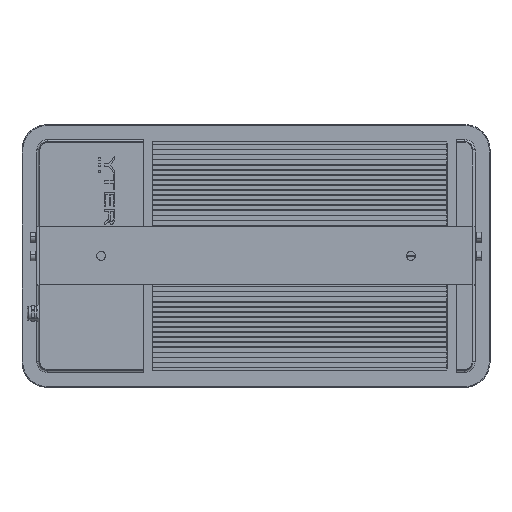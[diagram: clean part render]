
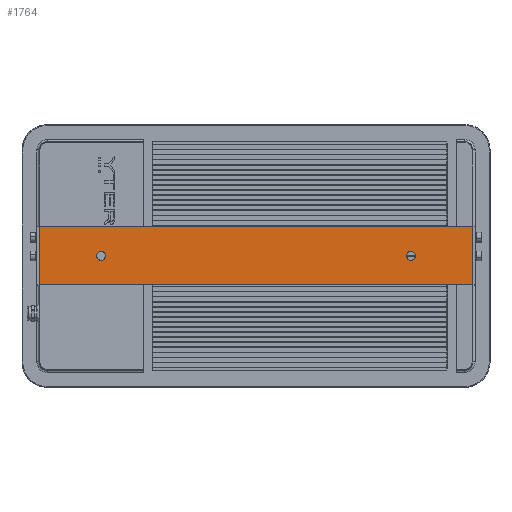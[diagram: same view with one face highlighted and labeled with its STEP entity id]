
A CAD part, top view. The second image highlights one B-rep face of the part: STEP entity #1764.
In plain terms, the highlighted planar face has unit normal (0, 0, 1).
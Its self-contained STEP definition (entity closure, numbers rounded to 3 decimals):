
#773=(
BOUNDED_CURVE()
B_SPLINE_CURVE(2,(#13394,#13395,#13396),.UNSPECIFIED.,.F.,.F.)
B_SPLINE_CURVE_WITH_KNOTS((3,3),(-189.,-111.),.UNSPECIFIED.)
CURVE()
GEOMETRIC_REPRESENTATION_ITEM()
RATIONAL_B_SPLINE_CURVE((1.,1.,1.))
REPRESENTATION_ITEM('')
);
#783=(
BOUNDED_CURVE()
B_SPLINE_CURVE(2,(#13468,#13469,#13470,#13471,#13472),.UNSPECIFIED.,.F.,
 .F.)
B_SPLINE_CURVE_WITH_KNOTS((3,2,3),(-37.699,-28.274,
-18.85),.UNSPECIFIED.)
CURVE()
GEOMETRIC_REPRESENTATION_ITEM()
RATIONAL_B_SPLINE_CURVE((1.,0.707,1.,0.707,1.))
REPRESENTATION_ITEM('')
);
#784=(
BOUNDED_CURVE()
B_SPLINE_CURVE(2,(#13475,#13476,#13477,#13478,#13479),.UNSPECIFIED.,.F.,
 .F.)
B_SPLINE_CURVE_WITH_KNOTS((3,2,3),(-37.699,-28.274,
-18.85),.UNSPECIFIED.)
CURVE()
GEOMETRIC_REPRESENTATION_ITEM()
RATIONAL_B_SPLINE_CURVE((1.,0.707,1.,0.707,1.))
REPRESENTATION_ITEM('')
);
#801=(
BOUNDED_CURVE()
B_SPLINE_CURVE(2,(#13604,#13605,#13606,#13607,#13608),.UNSPECIFIED.,.F.,
 .F.)
B_SPLINE_CURVE_WITH_KNOTS((3,2,3),(-18.85,-9.425,
0.),.UNSPECIFIED.)
CURVE()
GEOMETRIC_REPRESENTATION_ITEM()
RATIONAL_B_SPLINE_CURVE((1.,0.707,1.,0.707,1.))
REPRESENTATION_ITEM('')
);
#803=(
BOUNDED_CURVE()
B_SPLINE_CURVE(2,(#13616,#13617,#13618,#13619,#13620),.UNSPECIFIED.,.F.,
 .F.)
B_SPLINE_CURVE_WITH_KNOTS((3,2,3),(-18.85,-9.425,
0.),.UNSPECIFIED.)
CURVE()
GEOMETRIC_REPRESENTATION_ITEM()
RATIONAL_B_SPLINE_CURVE((1.,0.707,1.,0.707,1.))
REPRESENTATION_ITEM('')
);
#1450=FACE_BOUND('',#2912,.T.);
#1451=FACE_BOUND('',#2913,.T.);
#1764=ADVANCED_FACE('',(#2334,#1450,#1451),#10904,.T.);
#2334=FACE_OUTER_BOUND('',#2911,.T.);
#2911=EDGE_LOOP('',(#3851,#3852,#3853,#3854));
#2912=EDGE_LOOP('',(#3855,#3856));
#2913=EDGE_LOOP('',(#3857,#3858));
#3851=ORIENTED_EDGE('',*,*,#6614,.F.);
#3852=ORIENTED_EDGE('',*,*,#6616,.T.);
#3853=ORIENTED_EDGE('',*,*,#6596,.T.);
#3854=ORIENTED_EDGE('',*,*,#6617,.T.);
#3855=ORIENTED_EDGE('',*,*,#6619,.T.);
#3856=ORIENTED_EDGE('',*,*,#6647,.T.);
#3857=ORIENTED_EDGE('',*,*,#6621,.T.);
#3858=ORIENTED_EDGE('',*,*,#6650,.T.);
#6596=EDGE_CURVE('',#9678,#9675,#773,.T.);
#6614=EDGE_CURVE('',#9688,#9687,#8335,.T.);
#6616=EDGE_CURVE('',#9688,#9678,#8337,.T.);
#6617=EDGE_CURVE('',#9675,#9687,#8338,.T.);
#6619=EDGE_CURVE('',#9689,#9706,#783,.T.);
#6621=EDGE_CURVE('',#9690,#9708,#784,.T.);
#6647=EDGE_CURVE('',#9706,#9689,#801,.T.);
#6650=EDGE_CURVE('',#9708,#9690,#803,.T.);
#8335=B_SPLINE_CURVE_WITH_KNOTS('',1,(#13458,#13459),.UNSPECIFIED.,.F.,
 .F.,(2,2),(-78.,0.),.UNSPECIFIED.);
#8337=B_SPLINE_CURVE_WITH_KNOTS('',1,(#13462,#13463),.UNSPECIFIED.,.F.,
 .F.,(2,2),(78.,666.),.UNSPECIFIED.);
#8338=B_SPLINE_CURVE_WITH_KNOTS('',1,(#13464,#13465),.UNSPECIFIED.,.F.,
 .F.,(2,2),(744.,1332.),.UNSPECIFIED.);
#9675=VERTEX_POINT('',#13356);
#9678=VERTEX_POINT('',#13359);
#9687=VERTEX_POINT('',#13368);
#9688=VERTEX_POINT('',#13369);
#9689=VERTEX_POINT('',#13370);
#9690=VERTEX_POINT('',#13371);
#9706=VERTEX_POINT('',#13387);
#9708=VERTEX_POINT('',#13389);
#10904=PLANE('',#11336);
#11336=AXIS2_PLACEMENT_3D('',#13230,#11752,$);
#11752=DIRECTION('',(0.,0.,1.));
#13230=CARTESIAN_POINT('',(-261.527,-60.264,138.1));
#13356=CARTESIAN_POINT('',(-261.527,-60.264,138.1));
#13359=CARTESIAN_POINT('',(-261.527,17.736,138.1));
#13368=CARTESIAN_POINT('',(319.473,-60.264,138.1));
#13369=CARTESIAN_POINT('',(319.473,17.736,138.1));
#13370=CARTESIAN_POINT('',(242.402,-21.264,138.1));
#13371=CARTESIAN_POINT('',(-172.598,-21.264,138.1));
#13387=CARTESIAN_POINT('',(230.545,-21.264,138.1));
#13389=CARTESIAN_POINT('',(-184.455,-21.264,138.1));
#13394=CARTESIAN_POINT('',(-261.527,17.736,138.1));
#13395=CARTESIAN_POINT('',(-261.527,-21.264,138.1));
#13396=CARTESIAN_POINT('',(-261.527,-60.264,138.1));
#13458=CARTESIAN_POINT('',(319.473,17.736,138.1));
#13459=CARTESIAN_POINT('',(319.473,-60.264,138.1));
#13462=CARTESIAN_POINT('',(319.473,17.736,138.1));
#13463=CARTESIAN_POINT('',(-261.527,17.736,138.1));
#13464=CARTESIAN_POINT('',(-261.527,-60.264,138.1));
#13465=CARTESIAN_POINT('',(319.473,-60.264,138.1));
#13468=CARTESIAN_POINT('',(242.402,-21.264,138.1));
#13469=CARTESIAN_POINT('',(242.402,-27.264,138.1));
#13470=CARTESIAN_POINT('',(236.473,-27.264,138.1));
#13471=CARTESIAN_POINT('',(230.545,-27.264,138.1));
#13472=CARTESIAN_POINT('',(230.545,-21.264,138.1));
#13475=CARTESIAN_POINT('',(-172.598,-21.264,138.1));
#13476=CARTESIAN_POINT('',(-172.598,-27.264,138.1));
#13477=CARTESIAN_POINT('',(-178.527,-27.264,138.1));
#13478=CARTESIAN_POINT('',(-184.455,-27.264,138.1));
#13479=CARTESIAN_POINT('',(-184.455,-21.264,138.1));
#13604=CARTESIAN_POINT('',(230.545,-21.264,138.1));
#13605=CARTESIAN_POINT('',(230.545,-15.264,138.1));
#13606=CARTESIAN_POINT('',(236.473,-15.264,138.1));
#13607=CARTESIAN_POINT('',(242.402,-15.264,138.1));
#13608=CARTESIAN_POINT('',(242.402,-21.264,138.1));
#13616=CARTESIAN_POINT('',(-184.455,-21.264,138.1));
#13617=CARTESIAN_POINT('',(-184.455,-15.264,138.1));
#13618=CARTESIAN_POINT('',(-178.527,-15.264,138.1));
#13619=CARTESIAN_POINT('',(-172.598,-15.264,138.1));
#13620=CARTESIAN_POINT('',(-172.598,-21.264,138.1));
